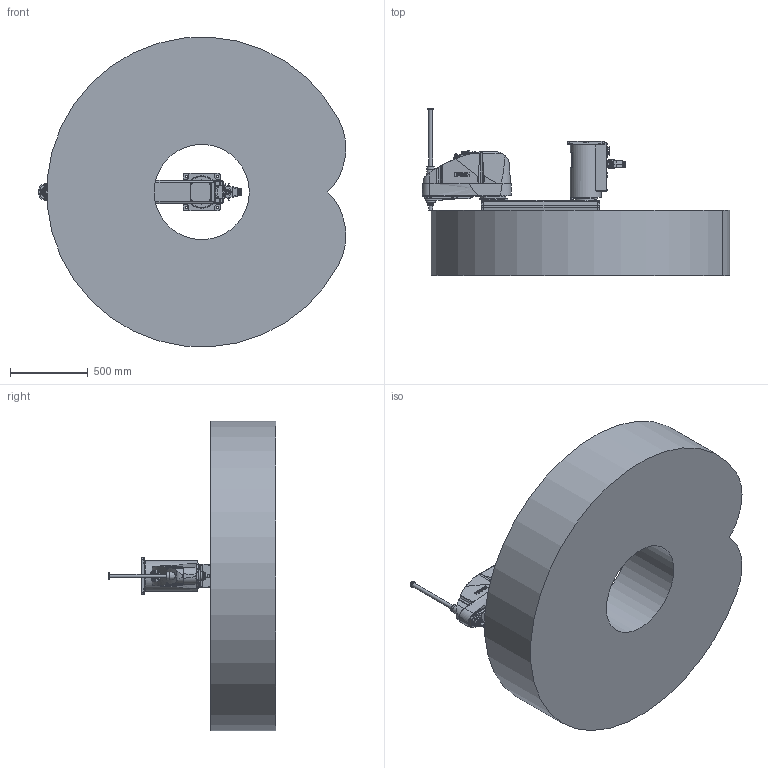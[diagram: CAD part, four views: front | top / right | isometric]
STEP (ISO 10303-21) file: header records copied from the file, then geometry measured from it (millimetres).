
FILE_DESCRIPTION( ( 'STEP AP214' ), '1' );
FILE_NAME( 'C:/Users/9607552/Desktop/GX20-BA04SR_straight.stp', '2023-08-01T09:44:14', ( '' ), ( '' ), ' ', 'PARTsolutions', ' ' );
FILE_SCHEMA( ( 'AUTOMOTIVE_DESIGN { 1 0 10303 214 1 1 1 1 }' ) );
Length unit declared in the file: millimetre
Products named in the file (7): GX20-BA04SRS-W; _Base sr; _Straight-B; _J1 Arm GX10-600 r/w; _J2 Arm GX10-s; _J3 Arm GX10-s (4); _GX10_20B-36_4
Assembly tree (6 placements, depth 2):
  GX20-BA04SRS-W
    _Base sr
    _Straight-B
    _J1 Arm GX10-600 r/w
    _J2 Arm GX10-s
    _J3 Arm GX10-s (4)
    _GX10_20B-36_4
Bounding box: 1985.19 x 1080 x 1996.91 mm (x, y, z)
Volume: 1214220890.6 mm3; surface area: 10538680.8 mm2
Topology: 6 solids, 6 shells, 2501 faces, 6114 edges, 3988 vertices
Faces by surface type: plane 1310, cylinder 759, cone 334, torus 65, bspline 32, sphere 1
Full cylindrical faces by diameter (mm): 1 x24, 1.18 x55, 3 x32, 3.242 x10, 3.3 x4, 4.2 x4, 4.8 x4, 5.1 x4, 5.25 x2, 5.34 x8, 5.4 x5, 5.5 x16, 6 x1, 6.2 x4, 6.647 x2, 7 x31, 8 x9, 8.5 x2, 9 x4, 10 x32, 11 x14, 12 x6, 12.25 x1, 13 x2, 14 x8, 14.25 x1, 16 x6, 18 x2, 20.4 x1, 21.7 x2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
Entity records: 94778 total; most frequent: CARTESIAN_POINT 18181, DIRECTION 11651, ORIENTED_EDGE 10886, EDGE_CURVE 5443, AXIS2_PLACEMENT_3D 4464, VERTEX_POINT 3898, EDGE_LOOP 3471, FACE_OUTER_BOUND 2873
